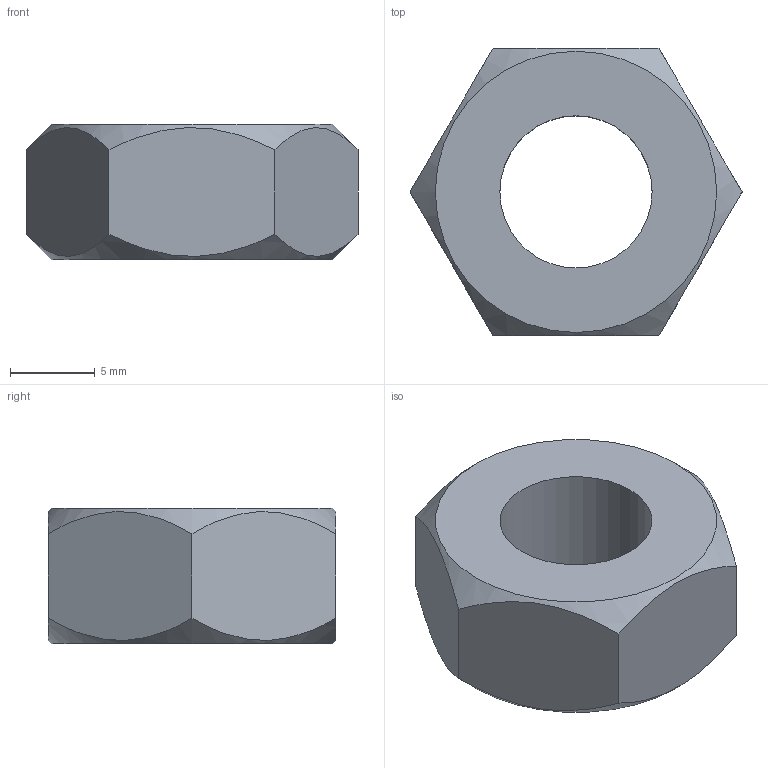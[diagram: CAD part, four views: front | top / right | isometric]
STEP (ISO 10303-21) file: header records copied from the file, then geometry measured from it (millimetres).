
FILE_DESCRIPTION(/* description */ (''),/* implementation_level */ '2;1');
FILE_NAME(/* name */ 'D:\조절자\NUT\M10 NUT.stp',/* time_stamp */ '2016-03-14T15:29:32+09:00',/* author */ ('GS-DT-1-001'),/* organization */ (''),/* preprocessor_version */ 'ST-DEVELOPER v15.6',/* originating_system */ 'Autodesk Inventor LT ',/* authorisation */ '');
FILE_SCHEMA (('AUTOMOTIVE_DESIGN { 1 0 10303 214 3 1 1 }'));
Length unit declared in the file: millimetre
Products named in the file (1): M10 NUT
Bounding box: 19.63 x 17 x 8 mm (x, y, z)
Volume: 1464.4 mm3; surface area: 1023.1 mm2
Topology: 1 solids, 1 shells, 11 faces, 25 edges, 16 vertices
Faces by surface type: plane 8, cone 2, cylinder 1
Full cylindrical faces by diameter (mm): 9 x1
Entity records: 308 total; most frequent: CARTESIAN_POINT 74, ORIENTED_EDGE 44, DIRECTION 38, EDGE_CURVE 22, EDGE_LOOP 16, VERTEX_POINT 16, AXIS2_PLACEMENT_3D 16, FACE_OUTER_BOUND 11
